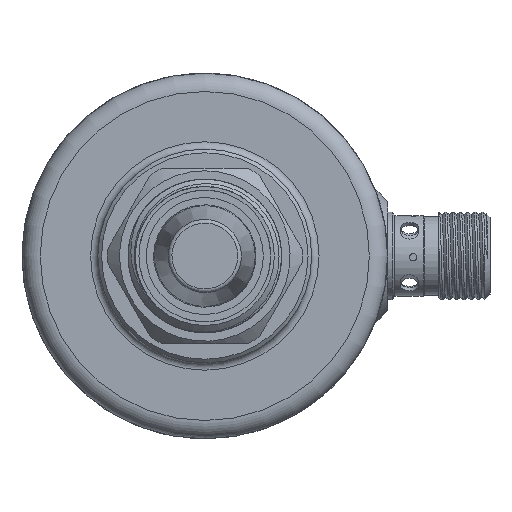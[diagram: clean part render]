
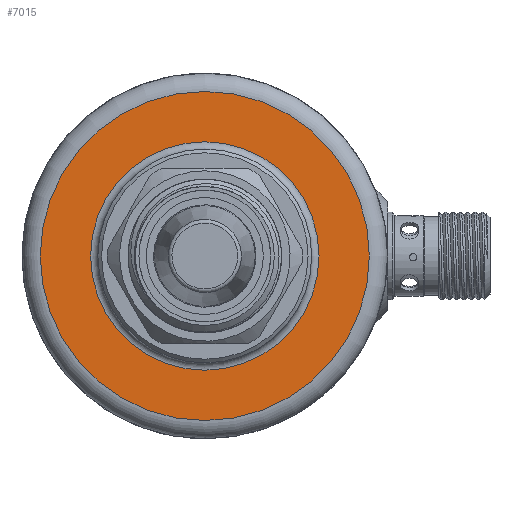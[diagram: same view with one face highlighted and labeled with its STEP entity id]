
A CAD part, front view. The second image highlights one B-rep face of the part: STEP entity #7015.
In plain terms, the highlighted planar face has unit normal (0, -1, 0) as drawn and (-1, 0, 0) by its records, which use the part's own axes.
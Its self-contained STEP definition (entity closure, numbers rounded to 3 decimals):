
#187 = EDGE_LOOP ( 'NONE', ( #8602 ) ) ;
#499 = CIRCLE ( 'NONE', #2298, 15.62 ) ;
#1322 = DIRECTION ( 'NONE',  ( 1., 0., 0. ) ) ;
#1696 = VERTEX_POINT ( 'NONE', #9205 ) ;
#1834 = AXIS2_PLACEMENT_3D ( 'NONE', #6647, #1322, #8917 ) ;
#2298 = AXIS2_PLACEMENT_3D ( 'NONE', #13325, #8968, #8170 ) ;
#2459 = PLANE ( 'NONE',  #1834 ) ;
#2802 = CIRCLE ( 'NONE', #3244, 22.5 ) ;
#3244 = AXIS2_PLACEMENT_3D ( 'NONE', #11451, #10532, #8287 ) ;
#4852 = VERTEX_POINT ( 'NONE', #8156 ) ;
#6647 = CARTESIAN_POINT ( 'NONE',  ( 41., 0., -0.275 ) ) ;
#7015 = ADVANCED_FACE ( 'NONE', ( #12289, #7707 ), #2459, .F. ) ;
#7611 = EDGE_CURVE ( 'NONE', #4852, #4852, #499, .T. ) ;
#7659 = EDGE_LOOP ( 'NONE', ( #8445 ) ) ;
#7707 = FACE_OUTER_BOUND ( 'NONE', #7659, .T. ) ;
#8156 = CARTESIAN_POINT ( 'NONE',  ( 41., 0., -15.895 ) ) ;
#8170 = DIRECTION ( 'NONE',  ( 0., 0., -1. ) ) ;
#8287 = DIRECTION ( 'NONE',  ( 0., 0., -1. ) ) ;
#8445 = ORIENTED_EDGE ( 'NONE', *, *, #8471, .T. ) ;
#8471 = EDGE_CURVE ( 'NONE', #1696, #1696, #2802, .T. ) ;
#8602 = ORIENTED_EDGE ( 'NONE', *, *, #7611, .T. ) ;
#8917 = DIRECTION ( 'NONE',  ( 0., 0., -1. ) ) ;
#8968 = DIRECTION ( 'NONE',  ( 1., 0., 0. ) ) ;
#9205 = CARTESIAN_POINT ( 'NONE',  ( 41., 0., -22.775 ) ) ;
#10532 = DIRECTION ( 'NONE',  ( -1., 0., 0. ) ) ;
#11451 = CARTESIAN_POINT ( 'NONE',  ( 41., 0., -0.275 ) ) ;
#12289 = FACE_BOUND ( 'NONE', #187, .T. ) ;
#13325 = CARTESIAN_POINT ( 'NONE',  ( 41., 0., -0.275 ) ) ;
